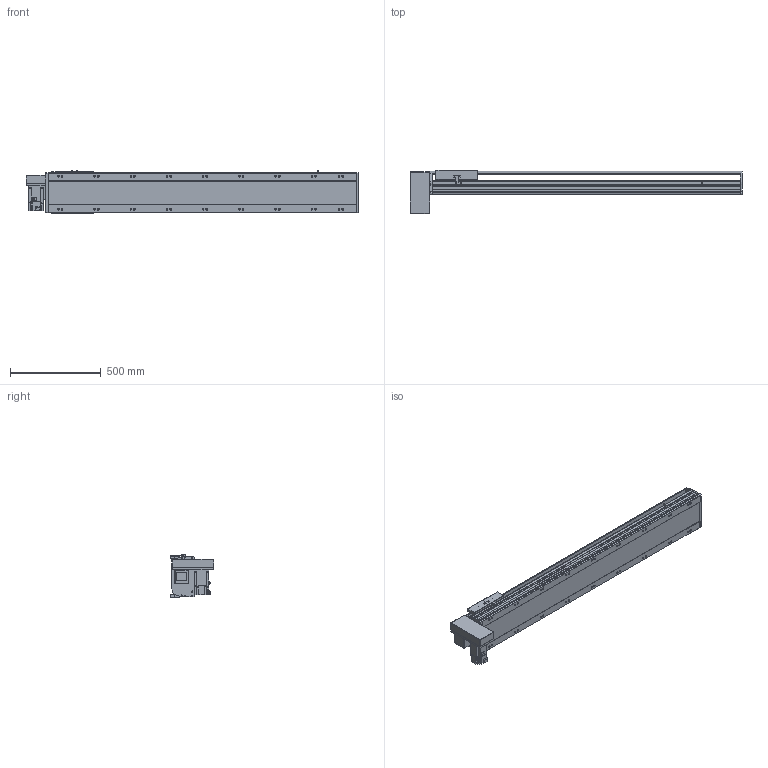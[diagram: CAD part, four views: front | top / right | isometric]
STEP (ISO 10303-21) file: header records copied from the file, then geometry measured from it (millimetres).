
FILE_DESCRIPTION(/* description */ ('STEP AP214'),/* implementation_level */ '2;1');
FILE_NAME(/* name */ 'PBS220-P40-S1350-RD-T75-C1-N(0)',/* time_stamp */ '2022-06-13T02:43:44+02:00',/* author */ ('License CC BY-ND 4.0'),/* organization */ ('CADENAS'),/* preprocessor_version */ 'ST-DEVELOPER v18.102',/* originating_system */ 'PARTsolutions',/* authorisation */ ' ');
FILE_SCHEMA (('AUTOMOTIVE_DESIGN {1 0 10303 214 3 1 1}'));
Length unit declared in the file: millimetre
Products named in the file (7): PBS220-P40-S1350-RD-T75-C1-N(0); PBS220_sensor; PBS220_plant; PBS220_sliser; T75-p1; PBS220T-RD_motors; PBS220-S1350()_body
Assembly tree (8 placements, depth 2):
  PBS220-P40-S1350-RD-T75-C1-N(0)
    PBS220_sensor  x3
    PBS220_plant
    PBS220_sliser
    T75-p1
    PBS220T-RD_motors
    PBS220-S1350()_body
Bounding box: 1834 x 239 x 238.5 mm (x, y, z)
Volume: 26172397 mm3; surface area: 2500973.8 mm2
Topology: 8 solids, 8 shells, 926 faces, 2424 edges, 1576 vertices
Faces by surface type: plane 602, cylinder 282, cone 42
Full cylindrical faces by diameter (mm): 2.013 x4, 4.5 x14, 4.917 x4, 6 x7, 6.647 x8, 8 x10, 8.376 x18, 8.5 x18, 10 x6, 14 x18, 38 x2, 40 x1, 70 x1
Entity records: 25941 total; most frequent: CARTESIAN_POINT 4558, DIRECTION 4509, ORIENTED_EDGE 4142, EDGE_CURVE 2071, AXIS2_PLACEMENT_3D 1581, VERTEX_POINT 1432, LINE 1347, VECTOR 1347
